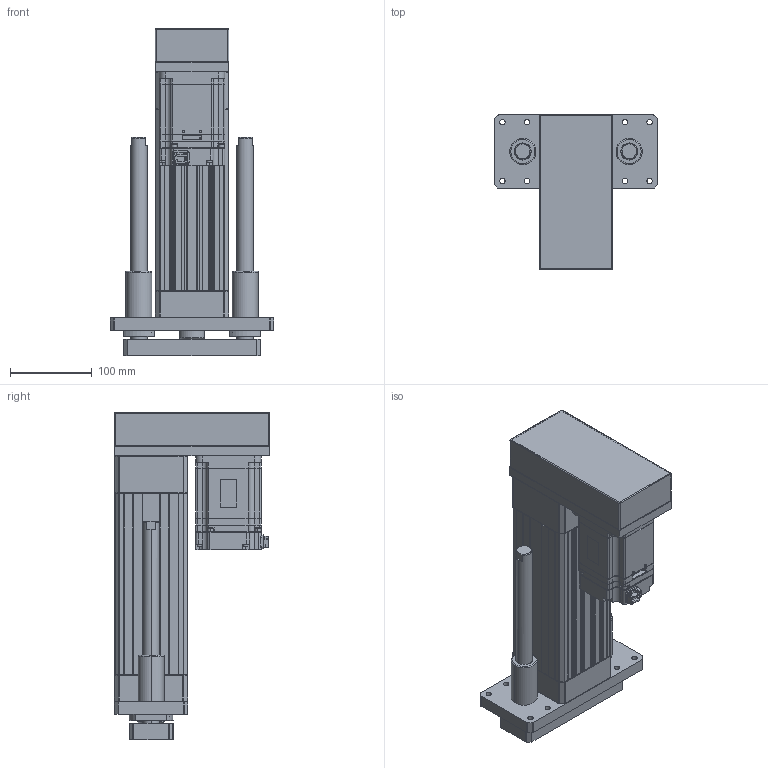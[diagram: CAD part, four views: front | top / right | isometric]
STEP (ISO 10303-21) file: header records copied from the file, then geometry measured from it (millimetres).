
FILE_DESCRIPTION (( 'STEP AP203' ), '1' );
FILE_NAME ('ANS090R-GP100-05(10)(20)-W75.STEP', '2019-03-02T08:51:21', ( 'user' ), ( '' ), 'SwSTEP 2.0', 'SolidWorks 2013', '' );
FILE_SCHEMA (( 'CONFIG_CONTROL_DESIGN' ));
Length unit declared in the file: millimetre
Products named in the file (4): ANS090R GP100 VER2; SGMJV_08A_A21; ANS090 ROD ST100-G; ANS090R-GP100-05(10)(20)-W75
Assembly tree (3 placements, depth 2):
  ANS090R-GP100-05(10)(20)-W75
    ANS090R GP100 VER2
    SGMJV_08A_A21
    ANS090 ROD ST100-G
Bounding box: 200 x 190 x 400 mm (x, y, z)
Volume: 2910134.1 mm3; surface area: 534729.1 mm2
Topology: 3 solids, 7 shells, 1393 faces, 3620 edges, 2322 vertices
Faces by surface type: plane 779, cylinder 454, cone 144, sphere 8, torus 4, bspline 4
Entity records: 43156 total; most frequent: CARTESIAN_POINT 7975, DIRECTION 7322, ORIENTED_EDGE 7200, EDGE_CURVE 3600, AXIS2_PLACEMENT_3D 2441, LINE 2440, VECTOR 2440, VERTEX_POINT 2322
